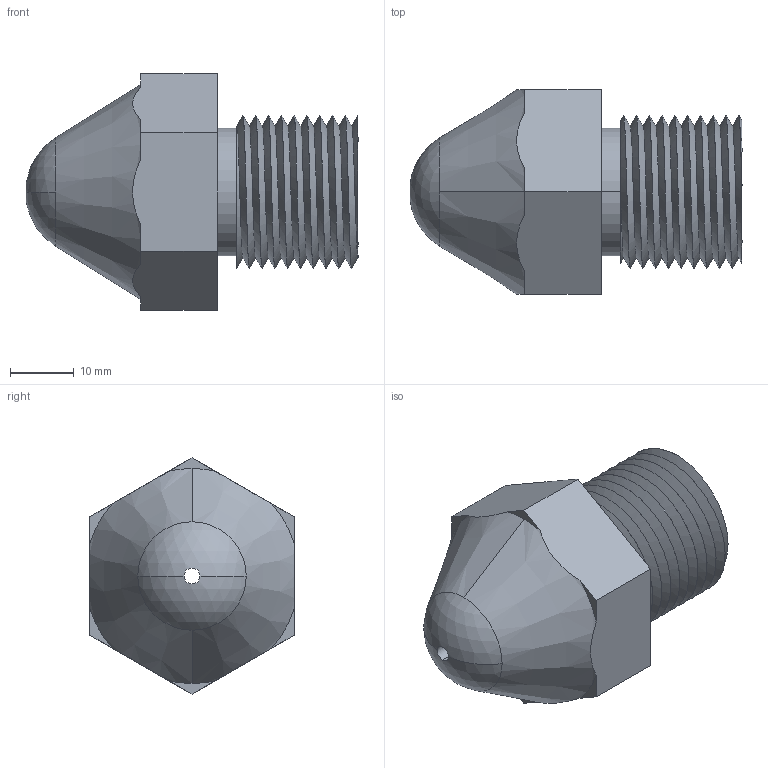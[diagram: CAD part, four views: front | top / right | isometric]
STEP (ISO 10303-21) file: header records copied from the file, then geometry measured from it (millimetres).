
FILE_DESCRIPTION (( 'STEP AP203' ), '1' );
FILE_NAME ('M24X2螺栓头(1).STEP', '2021-03-30T16:56:30', ( '微软用户' ), ( '微软中国' ), 'SwSTEP 2.0', 'SolidWorks 2013', '' );
FILE_SCHEMA (( 'CONFIG_CONTROL_DESIGN' ));
Length unit declared in the file: millimetre
Products named in the file (1): M24X2蹟邡芛(1)
Bounding box: 51.92 x 32 x 36.95 mm (x, y, z)
Volume: 21748.3 mm3; surface area: 8339.1 mm2
Topology: 1 solids, 1 shells, 52 faces, 141 edges, 92 vertices
Faces by surface type: cylinder 27, plane 15, cone 6, sphere 2, bspline 2
Entity records: 3399 total; most frequent: CARTESIAN_POINT 2124, ORIENTED_EDGE 282, DIRECTION 226, EDGE_CURVE 141, VERTEX_POINT 92, AXIS2_PLACEMENT_3D 85, VECTOR 56, LINE 56
